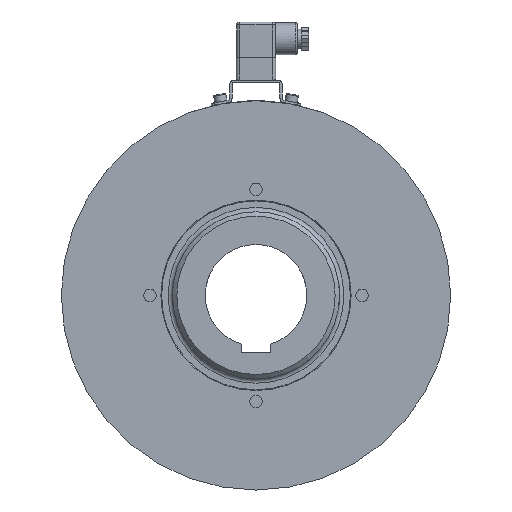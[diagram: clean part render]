
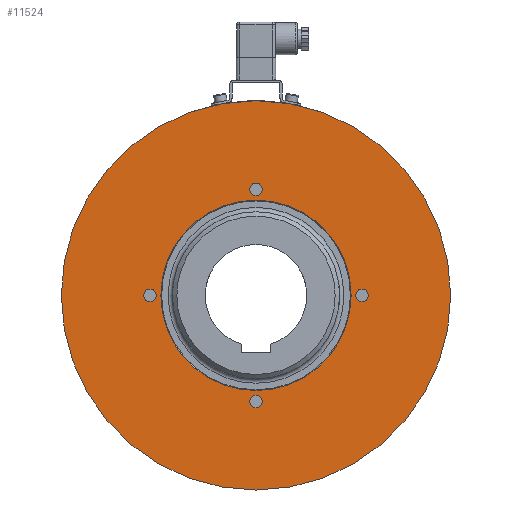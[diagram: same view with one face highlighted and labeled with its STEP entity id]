
A CAD part, left-side view. The second image highlights one B-rep face of the part: STEP entity #11524.
In plain terms, the highlighted planar face has unit normal (-1, 0, 0).
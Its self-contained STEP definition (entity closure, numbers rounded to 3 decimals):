
#238=FACE_BOUND('',#1640,.T.);
#239=FACE_BOUND('',#1641,.T.);
#240=FACE_BOUND('',#1642,.T.);
#241=FACE_BOUND('',#1643,.T.);
#242=FACE_BOUND('',#1644,.T.);
#410=PLANE('',#12998);
#956=FACE_OUTER_BOUND('',#1639,.T.);
#1639=EDGE_LOOP('',(#9691,#9692,#9693));
#1640=EDGE_LOOP('',(#9694,#9695));
#1641=EDGE_LOOP('',(#9696,#9697));
#1642=EDGE_LOOP('',(#9698,#9699));
#1643=EDGE_LOOP('',(#9700,#9701));
#1644=EDGE_LOOP('',(#9702));
#1803=CIRCLE('',#11643,134.);
#1804=CIRCLE('',#11644,134.);
#2678=CIRCLE('',#12999,134.);
#2679=CIRCLE('',#13000,4.25);
#2680=CIRCLE('',#13001,4.25);
#2681=CIRCLE('',#13002,4.25);
#2682=CIRCLE('',#13003,4.25);
#2683=CIRCLE('',#13004,4.25);
#2684=CIRCLE('',#13005,4.25);
#2685=CIRCLE('',#13006,4.25);
#2686=CIRCLE('',#13007,4.25);
#2687=CIRCLE('',#13008,65.5);
#4027=VERTEX_POINT('',#16910);
#4028=VERTEX_POINT('',#16912);
#4029=VERTEX_POINT('',#16914);
#4992=VERTEX_POINT('',#20352);
#4993=VERTEX_POINT('',#20353);
#4994=VERTEX_POINT('',#20356);
#4995=VERTEX_POINT('',#20357);
#4996=VERTEX_POINT('',#20360);
#4997=VERTEX_POINT('',#20361);
#4998=VERTEX_POINT('',#20364);
#4999=VERTEX_POINT('',#20365);
#5000=VERTEX_POINT('',#20368);
#5162=EDGE_CURVE('',#4028,#4027,#1803,.T.);
#5163=EDGE_CURVE('',#4029,#4028,#1804,.T.);
#6605=EDGE_CURVE('',#4027,#4029,#2678,.T.);
#6606=EDGE_CURVE('',#4992,#4993,#2679,.T.);
#6607=EDGE_CURVE('',#4993,#4992,#2680,.T.);
#6608=EDGE_CURVE('',#4994,#4995,#2681,.T.);
#6609=EDGE_CURVE('',#4995,#4994,#2682,.T.);
#6610=EDGE_CURVE('',#4996,#4997,#2683,.T.);
#6611=EDGE_CURVE('',#4997,#4996,#2684,.T.);
#6612=EDGE_CURVE('',#4998,#4999,#2685,.T.);
#6613=EDGE_CURVE('',#4999,#4998,#2686,.T.);
#6614=EDGE_CURVE('',#5000,#5000,#2687,.T.);
#9691=ORIENTED_EDGE('',*,*,#5162,.T.);
#9692=ORIENTED_EDGE('',*,*,#6605,.T.);
#9693=ORIENTED_EDGE('',*,*,#5163,.T.);
#9694=ORIENTED_EDGE('',*,*,#6606,.T.);
#9695=ORIENTED_EDGE('',*,*,#6607,.T.);
#9696=ORIENTED_EDGE('',*,*,#6608,.T.);
#9697=ORIENTED_EDGE('',*,*,#6609,.T.);
#9698=ORIENTED_EDGE('',*,*,#6610,.T.);
#9699=ORIENTED_EDGE('',*,*,#6611,.T.);
#9700=ORIENTED_EDGE('',*,*,#6612,.T.);
#9701=ORIENTED_EDGE('',*,*,#6613,.T.);
#9702=ORIENTED_EDGE('',*,*,#6614,.F.);
#11524=ADVANCED_FACE('',(#956,#238,#239,#240,#241,#242),#410,.T.);
#11643=AXIS2_PLACEMENT_3D('',#16913,#13194,#13195);
#11644=AXIS2_PLACEMENT_3D('',#16915,#13196,#13197);
#12998=AXIS2_PLACEMENT_3D('',#20350,#16380,#16381);
#12999=AXIS2_PLACEMENT_3D('',#20351,#16382,#16383);
#13000=AXIS2_PLACEMENT_3D('',#20354,#16384,#16385);
#13001=AXIS2_PLACEMENT_3D('',#20355,#16386,#16387);
#13002=AXIS2_PLACEMENT_3D('',#20358,#16388,#16389);
#13003=AXIS2_PLACEMENT_3D('',#20359,#16390,#16391);
#13004=AXIS2_PLACEMENT_3D('',#20362,#16392,#16393);
#13005=AXIS2_PLACEMENT_3D('',#20363,#16394,#16395);
#13006=AXIS2_PLACEMENT_3D('',#20366,#16396,#16397);
#13007=AXIS2_PLACEMENT_3D('',#20367,#16398,#16399);
#13008=AXIS2_PLACEMENT_3D('',#20369,#16400,#16401);
#13194=DIRECTION('center_axis',(-1.,0.,0.));
#13195=DIRECTION('ref_axis',(0.,1.,0.));
#13196=DIRECTION('center_axis',(-1.,0.,0.));
#13197=DIRECTION('ref_axis',(0.,1.,0.));
#16380=DIRECTION('center_axis',(-1.,0.,0.));
#16381=DIRECTION('ref_axis',(0.,0.,
1.));
#16382=DIRECTION('center_axis',(-1.,0.,0.));
#16383=DIRECTION('ref_axis',(0.,1.,0.));
#16384=DIRECTION('center_axis',(1.,0.,0.));
#16385=DIRECTION('ref_axis',(0.,1.,0.));
#16386=DIRECTION('center_axis',(1.,0.,0.));
#16387=DIRECTION('ref_axis',(0.,1.,0.));
#16388=DIRECTION('center_axis',(1.,0.,0.));
#16389=DIRECTION('ref_axis',(0.,1.,0.));
#16390=DIRECTION('center_axis',(1.,0.,0.));
#16391=DIRECTION('ref_axis',(0.,1.,0.));
#16392=DIRECTION('center_axis',(1.,0.,0.));
#16393=DIRECTION('ref_axis',(0.,1.,0.));
#16394=DIRECTION('center_axis',(1.,0.,0.));
#16395=DIRECTION('ref_axis',(0.,1.,0.));
#16396=DIRECTION('center_axis',(1.,0.,0.));
#16397=DIRECTION('ref_axis',(0.,1.,0.));
#16398=DIRECTION('center_axis',(1.,0.,0.));
#16399=DIRECTION('ref_axis',(0.,1.,0.));
#16400=DIRECTION('center_axis',(-1.,0.,0.));
#16401=DIRECTION('ref_axis',(0.,-1.,0.));
#16910=CARTESIAN_POINT('',(-19.8,-134.,0.));
#16912=CARTESIAN_POINT('',(-19.8,134.,0.));
#16913=CARTESIAN_POINT('Origin',(-19.8,0.,0.));
#16914=CARTESIAN_POINT('',(-19.8,23.269,131.964));
#16915=CARTESIAN_POINT('Origin',(-19.8,0.,0.));
#20350=CARTESIAN_POINT('Origin',(-19.8,99.5,0.));
#20351=CARTESIAN_POINT('Origin',(-19.8,0.,0.));
#20352=CARTESIAN_POINT('',(-19.8,4.25,-73.));
#20353=CARTESIAN_POINT('',(-19.8,-4.25,-73.));
#20354=CARTESIAN_POINT('Origin',(-19.8,0.,-73.));
#20355=CARTESIAN_POINT('Origin',(-19.8,0.,-73.));
#20356=CARTESIAN_POINT('',(-19.8,4.25,73.));
#20357=CARTESIAN_POINT('',(-19.8,-4.25,73.));
#20358=CARTESIAN_POINT('Origin',(-19.8,0.,73.));
#20359=CARTESIAN_POINT('Origin',(-19.8,0.,73.));
#20360=CARTESIAN_POINT('',(-19.8,77.25,0.));
#20361=CARTESIAN_POINT('',(-19.8,68.75,0.));
#20362=CARTESIAN_POINT('Origin',(-19.8,73.,0.));
#20363=CARTESIAN_POINT('Origin',(-19.8,73.,0.));
#20364=CARTESIAN_POINT('',(-19.8,-68.75,0.));
#20365=CARTESIAN_POINT('',(-19.8,-77.25,0.));
#20366=CARTESIAN_POINT('Origin',(-19.8,-73.,0.));
#20367=CARTESIAN_POINT('Origin',(-19.8,-73.,0.));
#20368=CARTESIAN_POINT('',(-19.8,65.5,0.));
#20369=CARTESIAN_POINT('Origin',(-19.8,0.,0.));
